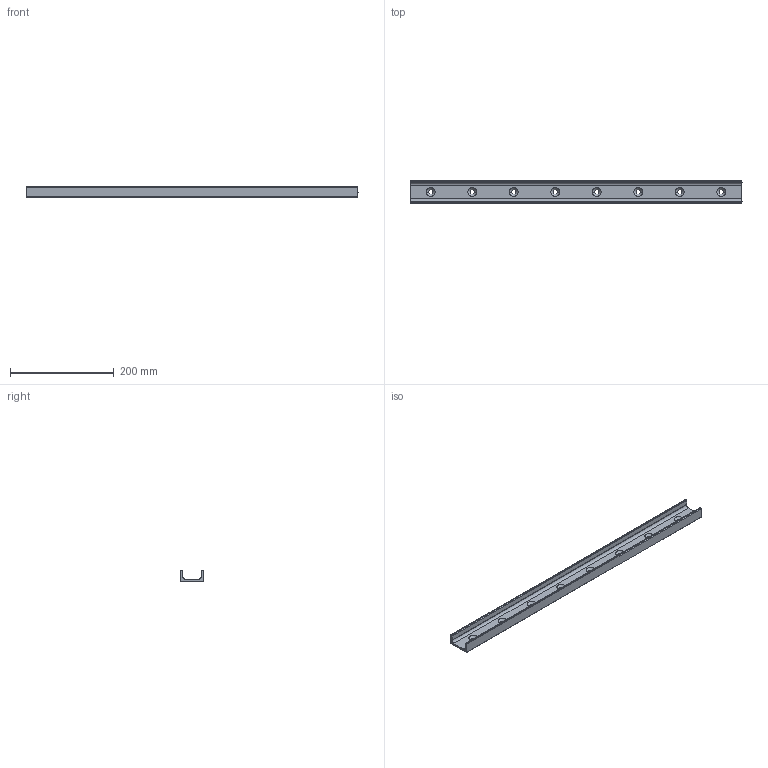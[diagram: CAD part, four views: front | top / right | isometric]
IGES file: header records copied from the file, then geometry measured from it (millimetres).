
Start section: SolidWorks IGES file using analytic representation for surfaces
Global section: file name: C:\Users\IanO\Desktop\43\L1943.ULV43_v2_20180121_IGES\L1943.ULV43-0640.igs; native system: SolidWorks 2017; preprocessor: SolidWorks 2017; author: IanO; date: 190121.085918; units: millimetre
Bounding box: 640 x 43 x 21 mm (x, y, z)
Surface area: 99808.7 mm2 (no closed solid volume)
Topology: 0 solids, 0 shells, 58 faces, 934 edges, 934 vertices
Faces by surface type: revolution 45, bspline 13
